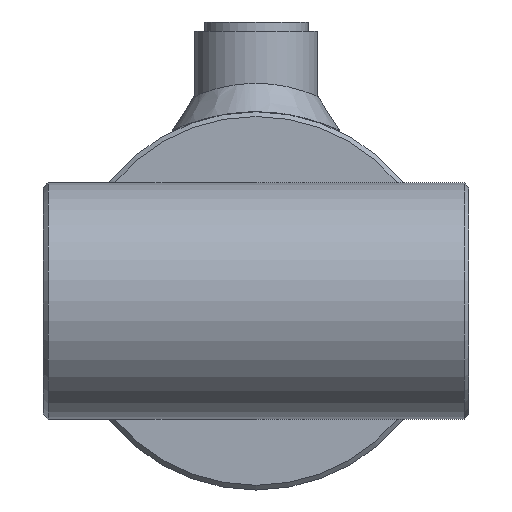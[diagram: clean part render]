
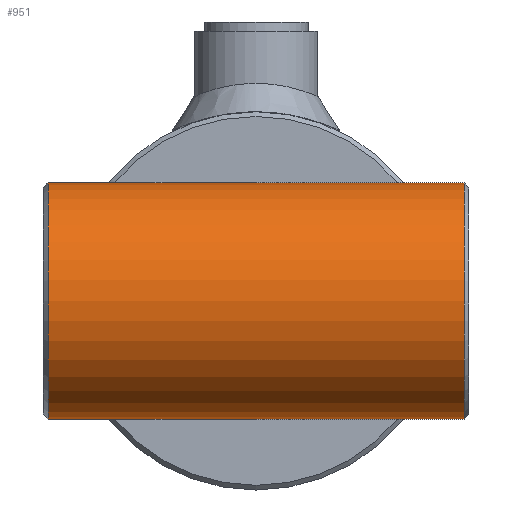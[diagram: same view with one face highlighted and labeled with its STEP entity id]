
A CAD part, left-side view. The second image highlights one B-rep face of the part: STEP entity #951.
In plain terms, the highlighted cylindrical face has radius 25 mm (diameter 50 mm), a full revolution.
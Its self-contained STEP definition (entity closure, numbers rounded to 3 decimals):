
#951 = ADVANCED_FACE( '', ( #1823, #1824 ), #1825, .T. );
#1823 = FACE_OUTER_BOUND( '', #4792, .T. );
#1824 = FACE_OUTER_BOUND( '', #4793, .T. );
#1825 = CYLINDRICAL_SURFACE( '', #4794, 25. );
#4792 = EDGE_LOOP( '', ( #8389 ) );
#4793 = EDGE_LOOP( '', ( #8390 ) );
#4794 = AXIS2_PLACEMENT_3D( '', #8391, #8392, #8393 );
#8389 = ORIENTED_EDGE( '', *, *, #9725, .T. );
#8390 = ORIENTED_EDGE( '', *, *, #9800, .T. );
#8391 = CARTESIAN_POINT( '', ( 0., -45., 0. ) );
#8392 = DIRECTION( '', ( 0., -1., 0. ) );
#8393 = DIRECTION( '', ( 0., 0., 1. ) );
#9725 = EDGE_CURVE( '', #10720, #10720, #10721, .F. );
#9800 = EDGE_CURVE( '', #10832, #10832, #10833, .T. );
#10720 = VERTEX_POINT( '', #12811 );
#10721 = CIRCLE( '', #12812, 25. );
#10832 = VERTEX_POINT( '', #13300 );
#10833 = CIRCLE( '', #13301, 25. );
#12811 = CARTESIAN_POINT( '', ( 0., 44., 25. ) );
#12812 = AXIS2_PLACEMENT_3D( '', #15290, #15291, #15292 );
#13300 = CARTESIAN_POINT( '', ( 0., -44., 25. ) );
#13301 = AXIS2_PLACEMENT_3D( '', #15335, #15336, #15337 );
#15290 = CARTESIAN_POINT( '', ( 0., 44., 0. ) );
#15291 = DIRECTION( '', ( 0., 1., 0. ) );
#15292 = DIRECTION( '', ( 0., 0., 1. ) );
#15335 = CARTESIAN_POINT( '', ( 0., -44., 0. ) );
#15336 = DIRECTION( '', ( 0., 1., 0. ) );
#15337 = DIRECTION( '', ( 0., 0., 1. ) );
